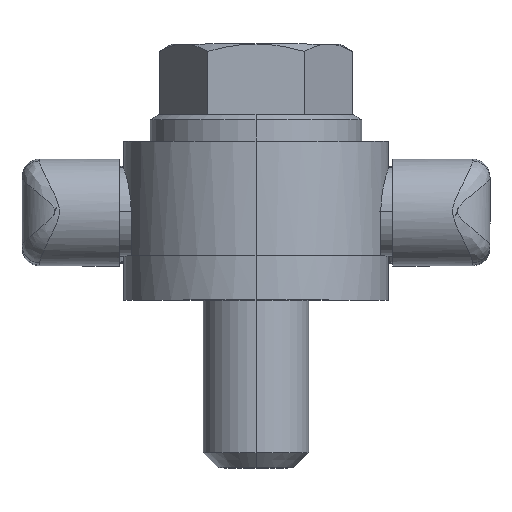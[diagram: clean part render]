
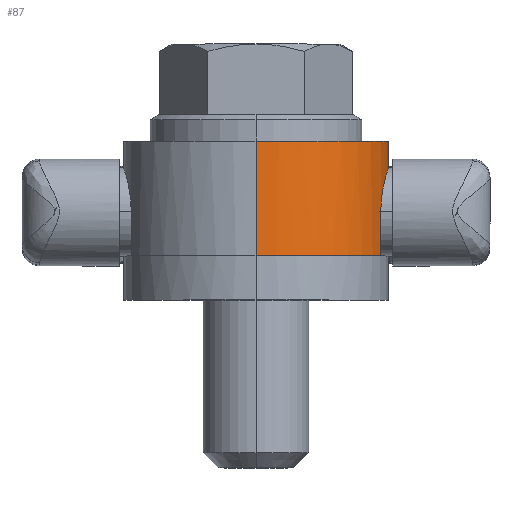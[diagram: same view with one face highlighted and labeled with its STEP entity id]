
A CAD part, top view. The second image highlights one B-rep face of the part: STEP entity #87.
In plain terms, the highlighted cylindrical face has radius 15 mm (diameter 30 mm), a partial arc.
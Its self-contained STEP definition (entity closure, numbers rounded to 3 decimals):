
#69 = ORIENTED_EDGE ( 'NONE', *, *, #70, .T. ) ;
#70 = EDGE_CURVE ( 'NONE', #89, #71, #1742, .T. ) ;
#71 = VERTEX_POINT ( 'NONE', #1787 ) ;
#72 = ORIENTED_EDGE ( 'NONE', *, *, #73, .F. ) ;
#73 = EDGE_CURVE ( 'NONE', #74, #71, #1770, .T. ) ;
#74 = VERTEX_POINT ( 'NONE', #1823 ) ;
#87 = ADVANCED_FACE ( 'NONE', ( #1839 ), #1836, .T. ) ;
#88 = EDGE_LOOP ( 'NONE', ( #182, #69, #72, #174, #201, #168, #171, #193 ) ) ;
#89 = VERTEX_POINT ( 'NONE', #1786 ) ;
#166 = EDGE_CURVE ( 'NONE', #200, #167, #1973, .T. ) ;
#167 = VERTEX_POINT ( 'NONE', #1945 ) ;
#168 = ORIENTED_EDGE ( 'NONE', *, *, #169, .T. ) ;
#169 = EDGE_CURVE ( 'NONE', #167, #170, #1974, .T. ) ;
#170 = VERTEX_POINT ( 'NONE', #1890 ) ;
#171 = ORIENTED_EDGE ( 'NONE', *, *, #172, .F. ) ;
#172 = EDGE_CURVE ( 'NONE', #173, #170, #1969, .T. ) ;
#173 = VERTEX_POINT ( 'NONE', #1964 ) ;
#174 = ORIENTED_EDGE ( 'NONE', *, *, #199, .T. ) ;
#182 = ORIENTED_EDGE ( 'NONE', *, *, #183, .F. ) ;
#183 = EDGE_CURVE ( 'NONE', #89, #184, #1983, .T. ) ;
#184 = VERTEX_POINT ( 'NONE', #2036 ) ;
#193 = ORIENTED_EDGE ( 'NONE', *, *, #194, .F. ) ;
#194 = EDGE_CURVE ( 'NONE', #184, #173, #1883, .T. ) ;
#199 = EDGE_CURVE ( 'NONE', #74, #200, #1937, .T. ) ;
#200 = VERTEX_POINT ( 'NONE', #1933 ) ;
#201 = ORIENTED_EDGE ( 'NONE', *, *, #166, .T. ) ;
#1742 = LINE ( 'NONE', #1744, #1821 ) ;
#1744 = CARTESIAN_POINT ( 'NONE',  ( 0., 21., 15. ) ) ;
#1768 = CARTESIAN_POINT ( 'NONE',  ( 0., 5., 0. ) ) ;
#1769 = AXIS2_PLACEMENT_3D ( 'NONE', #1768, #1819, #1842 ) ;
#1770 = CIRCLE ( 'NONE', #1769, 15. ) ;
#1784 = DIRECTION ( 'NONE',  ( 0., 0., -1. ) ) ;
#1785 = DIRECTION ( 'NONE',  ( 0., -1., 0. ) ) ;
#1786 = CARTESIAN_POINT ( 'NONE',  ( 0., 18., 15. ) ) ;
#1787 = CARTESIAN_POINT ( 'NONE',  ( 0., 5., 15. ) ) ;
#1819 = DIRECTION ( 'NONE',  ( 0., -1., 0. ) ) ;
#1820 = DIRECTION ( 'NONE',  ( 0., -1., 0. ) ) ;
#1821 = VECTOR ( 'NONE', #1820, 1000. ) ;
#1823 = CARTESIAN_POINT ( 'NONE',  ( 14.142, 5., 5. ) ) ;
#1836 = CYLINDRICAL_SURFACE ( 'NONE', #1838, 15. ) ;
#1837 = CARTESIAN_POINT ( 'NONE',  ( 0., 21., 0. ) ) ;
#1838 = AXIS2_PLACEMENT_3D ( 'NONE', #1837, #1785, #1784 ) ;
#1839 = FACE_OUTER_BOUND ( 'NONE', #88, .T. ) ;
#1842 = DIRECTION ( 'NONE',  ( 0., 0., -1. ) ) ;
#1861 = CARTESIAN_POINT ( 'NONE',  ( 14.313, 12.225, -4.489 ) ) ;
#1862 = CARTESIAN_POINT ( 'NONE',  ( 14.362, 12.517, -4.332 ) ) ;
#1863 = CARTESIAN_POINT ( 'NONE',  ( 14.466, 13.057, -3.97 ) ) ;
#1864 = CARTESIAN_POINT ( 'NONE',  ( 14.522, 13.306, -3.765 ) ) ;
#1865 = CARTESIAN_POINT ( 'NONE',  ( 14.633, 13.766, -3.305 ) ) ;
#1866 = CARTESIAN_POINT ( 'NONE',  ( 14.689, 13.975, -3.05 ) ) ;
#1880 = DIRECTION ( 'NONE',  ( 0., -1., 0. ) ) ;
#1881 = VECTOR ( 'NONE', #1880, 1000. ) ;
#1882 = CARTESIAN_POINT ( 'NONE',  ( 0., 21., -15. ) ) ;
#1883 = LINE ( 'NONE', #1882, #1881 ) ;
#1890 = CARTESIAN_POINT ( 'NONE',  ( 14.142, 5., -5. ) ) ;
#1891 = DIRECTION ( 'NONE',  ( 0., -1., 0. ) ) ;
#1892 = VECTOR ( 'NONE', #1891, 1000. ) ;
#1893 = CARTESIAN_POINT ( 'NONE',  ( 14.142, 21., -5. ) ) ;
#1933 = CARTESIAN_POINT ( 'NONE',  ( 14.142, 10., 5. ) ) ;
#1934 = DIRECTION ( 'NONE',  ( 0., 1., 0. ) ) ;
#1935 = VECTOR ( 'NONE', #1934, 1000. ) ;
#1936 = CARTESIAN_POINT ( 'NONE',  ( 14.142, 21., 5. ) ) ;
#1937 = LINE ( 'NONE', #1936, #1935 ) ;
#1942 = CARTESIAN_POINT ( 'NONE',  ( 14.944, 14.829, 1.306 ) ) ;
#1943 = CARTESIAN_POINT ( 'NONE',  ( 14.913, 14.733, 1.621 ) ) ;
#1944 = CARTESIAN_POINT ( 'NONE',  ( 14.895, 14.677, 1.774 ) ) ;
#1945 = CARTESIAN_POINT ( 'NONE',  ( 14.142, 10., -5. ) ) ;
#1964 = CARTESIAN_POINT ( 'NONE',  ( 0., 5., -15. ) ) ;
#1965 = DIRECTION ( 'NONE',  ( 0., 0., -1. ) ) ;
#1966 = DIRECTION ( 'NONE',  ( 0., -1., 0. ) ) ;
#1967 = CARTESIAN_POINT ( 'NONE',  ( 0., 5., 0. ) ) ;
#1968 = AXIS2_PLACEMENT_3D ( 'NONE', #1967, #1966, #1965 ) ;
#1969 = CIRCLE ( 'NONE', #1968, 15. ) ;
#1970 = CARTESIAN_POINT ( 'NONE',  ( 14.361, 12.51, 4.336 ) ) ;
#1971 = CARTESIAN_POINT ( 'NONE',  ( 14.313, 12.224, 4.49 ) ) ;
#1972 = CARTESIAN_POINT ( 'NONE',  ( 14.232, 11.62, 4.741 ) ) ;
#1973 = B_SPLINE_CURVE_WITH_KNOTS ( 'NONE', 3,
 ( #1988, #2025, #2024, #2023, #1972, #1971, #1970, #2028, #2027, #2026, #2021, #2020, #2019, #1944, #1943, #1942, #2013, #2012, #2011, #2010, #2009, #1992, #1991, #1990, #1989, #1866, #1865, #1864, #1863, #1862, #1861, #1998, #1997, #1996, #1995, #1994 ),
 .UNSPECIFIED., .F., .F.,
 ( 4, 2, 2, 2, 2, 2, 2, 2, 2, 2, 2, 2, 2, 2, 2, 2, 2, 4 ),
 ( 0., 0.001, 0.002, 0.003, 0.004, 0.005, 0.006, 0.006, 0.007, 0.008, 0.009, 0.01, 0.011, 0.012, 0.013, 0.014, 0.015, 0.016 ),
 .UNSPECIFIED. ) ;
#1974 = LINE ( 'NONE', #1893, #1892 ) ;
#1979 = DIRECTION ( 'NONE',  ( 0., 0., 1. ) ) ;
#1980 = DIRECTION ( 'NONE',  ( 0., 1., 0. ) ) ;
#1981 = CARTESIAN_POINT ( 'NONE',  ( 0., 18., 0. ) ) ;
#1982 = AXIS2_PLACEMENT_3D ( 'NONE', #1981, #1980, #1979 ) ;
#1983 = CIRCLE ( 'NONE', #1982, 15. ) ;
#1988 = CARTESIAN_POINT ( 'NONE',  ( 14.142, 10., 5. ) ) ;
#1989 = CARTESIAN_POINT ( 'NONE',  ( 14.791, 14.336, -2.511 ) ) ;
#1990 = CARTESIAN_POINT ( 'NONE',  ( 14.838, 14.491, -2.222 ) ) ;
#1991 = CARTESIAN_POINT ( 'NONE',  ( 14.916, 14.744, -1.614 ) ) ;
#1992 = CARTESIAN_POINT ( 'NONE',  ( 14.947, 14.839, -1.301 ) ) ;
#1994 = CARTESIAN_POINT ( 'NONE',  ( 14.142, 10., -5. ) ) ;
#1995 = CARTESIAN_POINT ( 'NONE',  ( 14.142, 10.333, -5. ) ) ;
#1996 = CARTESIAN_POINT ( 'NONE',  ( 14.154, 10.665, -4.967 ) ) ;
#1997 = CARTESIAN_POINT ( 'NONE',  ( 14.199, 11.312, -4.836 ) ) ;
#1998 = CARTESIAN_POINT ( 'NONE',  ( 14.232, 11.624, -4.74 ) ) ;
#2009 = CARTESIAN_POINT ( 'NONE',  ( 14.989, 14.967, -0.657 ) ) ;
#2010 = CARTESIAN_POINT ( 'NONE',  ( 15., 15., -0.323 ) ) ;
#2011 = CARTESIAN_POINT ( 'NONE',  ( 15., 15., 0.334 ) ) ;
#2012 = CARTESIAN_POINT ( 'NONE',  ( 14.989, 14.967, 0.66 ) ) ;
#2013 = CARTESIAN_POINT ( 'NONE',  ( 14.957, 14.87, 1.145 ) ) ;
#2019 = CARTESIAN_POINT ( 'NONE',  ( 14.837, 14.49, 2.225 ) ) ;
#2020 = CARTESIAN_POINT ( 'NONE',  ( 14.791, 14.336, 2.512 ) ) ;
#2021 = CARTESIAN_POINT ( 'NONE',  ( 14.688, 13.97, 3.057 ) ) ;
#2023 = CARTESIAN_POINT ( 'NONE',  ( 14.198, 11.302, 4.839 ) ) ;
#2024 = CARTESIAN_POINT ( 'NONE',  ( 14.154, 10.66, 4.967 ) ) ;
#2025 = CARTESIAN_POINT ( 'NONE',  ( 14.142, 10.333, 5. ) ) ;
#2026 = CARTESIAN_POINT ( 'NONE',  ( 14.633, 13.764, 3.307 ) ) ;
#2027 = CARTESIAN_POINT ( 'NONE',  ( 14.522, 13.306, 3.765 ) ) ;
#2028 = CARTESIAN_POINT ( 'NONE',  ( 14.465, 13.052, 3.974 ) ) ;
#2036 = CARTESIAN_POINT ( 'NONE',  ( 0., 18., -15. ) ) ;
